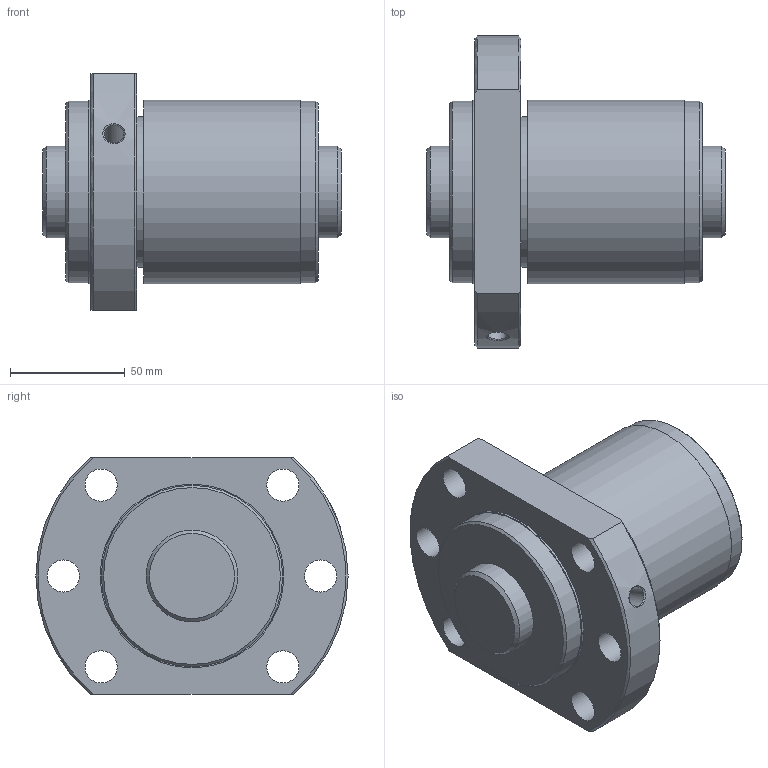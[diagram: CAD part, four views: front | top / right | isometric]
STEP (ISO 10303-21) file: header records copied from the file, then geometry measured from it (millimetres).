
FILE_DESCRIPTION(/* description */ ('STEP AP203'),/* implementation_level */ '2;1');
FILE_NAME(/* name */ 'SBK4020-7.6RRG0+130LC0(0000)',/* time_stamp */ '2024-05-28T11:20:11+02:00',/* author */ ('License CC BY-ND 4.0'),/* organization */ ('CADENAS'),/* preprocessor_version */ 'ST-DEVELOPER v19.3',/* originating_system */ 'PARTsolutions',/* authorisation */ ' ');
FILE_SCHEMA (('CONFIG_CONTROL_DESIGN'));
Length unit declared in the file: millimetre
Products named in the file (3): SBK4020-7.6RRG0+130LC0(0000); NRR000SBK4020-7.60Shaft; NRR000SBK4020-7.6Nut
Assembly tree (2 placements, depth 2):
  SBK4020-7.6RRG0+130LC0(0000)
    NRR000SBK4020-7.60Shaft
    NRR000SBK4020-7.6Nut
Bounding box: 130 x 136 x 103 mm (x, y, z)
Volume: 699484.1 mm3; surface area: 92712.7 mm2
Topology: 2 solids, 2 shells, 37 faces, 80 edges, 52 vertices
Faces by surface type: cylinder 16, plane 11, cone 10
Full cylindrical faces by diameter (mm): 8.566 x1, 14 x6, 40 x2, 65.44 x1, 79 x2, 80 x2
Entity records: 1020 total; most frequent: CARTESIAN_POINT 183, DIRECTION 168, ORIENTED_EDGE 114, AXIS2_PLACEMENT_3D 80, FACE_BOUND 77, EDGE_LOOP 76, EDGE_CURVE 57, VERTEX_POINT 50
